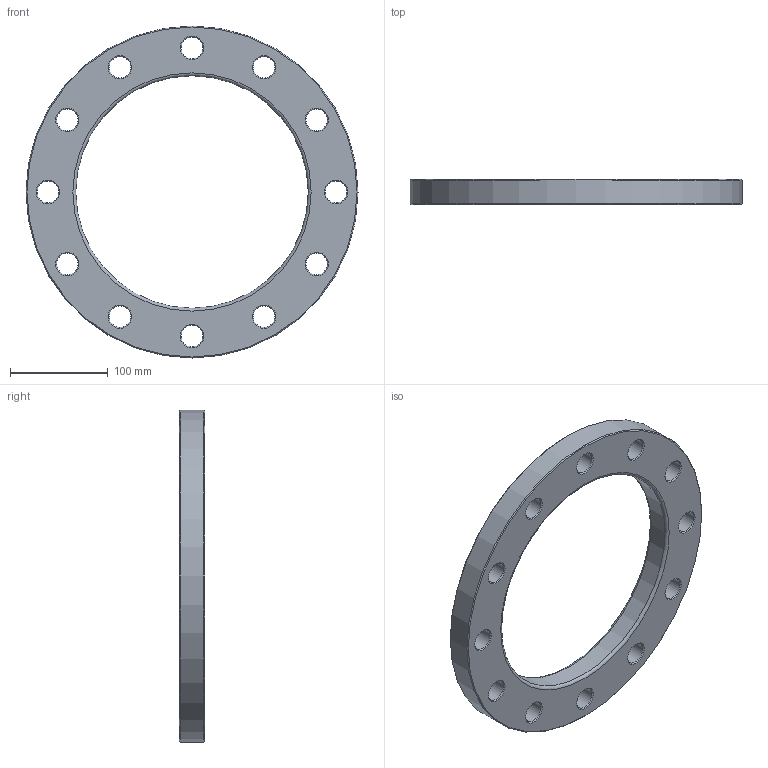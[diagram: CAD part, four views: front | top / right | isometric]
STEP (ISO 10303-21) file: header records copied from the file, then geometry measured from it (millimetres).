
FILE_DESCRIPTION(/* description */ ('Unknown'),/* implementation_level */ '2;1');
FILE_NAME(/* name */ 'FR225C',/* time_stamp */ '2022-07-05T17:03:27+02:00',/* author */ ('Unknown'),/* organization */ ('Unknown'),/* preprocessor_version */ 'ST-DEVELOPER v18.102',/* originating_system */ 'Solid Edge',/* authorisation */ 'Unknown');
FILE_SCHEMA (('AUTOMOTIVE_DESIGN {1 0 10303 214 3 1 1}'));
Length unit declared in the file: millimetre
Products named in the file (1): FR225C
Bounding box: 340 x 26 x 340 mm (x, y, z)
Volume: 1080475.8 mm3; surface area: 148148.5 mm2
Topology: 1 solids, 1 shells, 44 faces, 134 edges, 92 vertices
Faces by surface type: cone 26, cylinder 14, plane 2, torus 2
Full cylindrical faces by diameter (mm): 22 x12, 238 x1, 340 x1
Entity records: 1086 total; most frequent: DIRECTION 202, CARTESIAN_POINT 157, ORIENTED_EDGE 112, EDGE_LOOP 112, FACE_BOUND 112, AXIS2_PLACEMENT_3D 101, EDGE_CURVE 56, VERTEX_POINT 56
